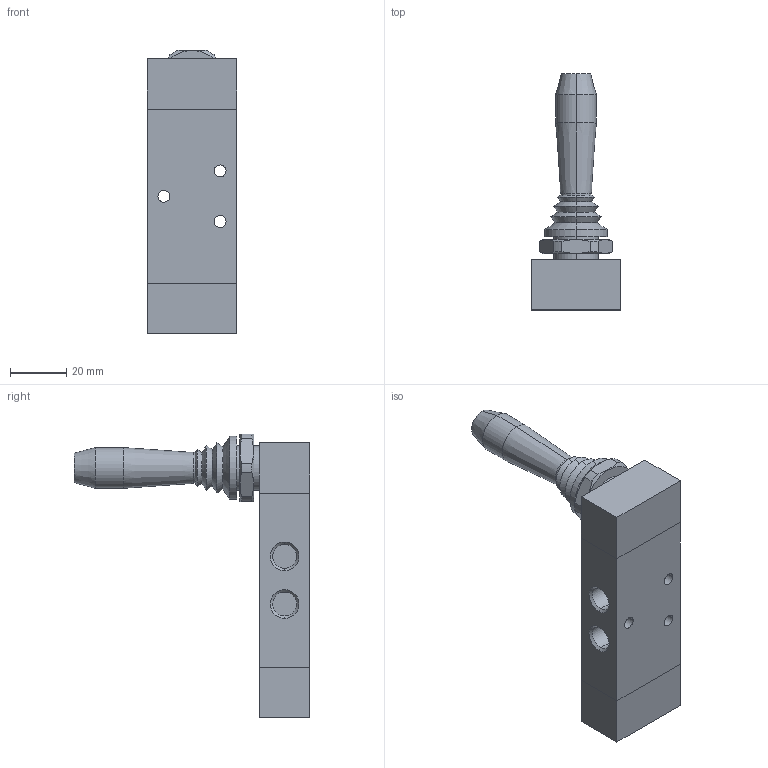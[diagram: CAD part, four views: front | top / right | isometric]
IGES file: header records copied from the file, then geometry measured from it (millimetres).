
Global section: file name: No Iges File Name specified; native system: AutoDesk Inventor R11.0; preprocessor: AutoDesk Inventor Iges Exporter R11.0; author: No Author specified; organization: No Organization specified; date: 20061219.114444; units: millimetre
Bounding box: 32 x 84.01 x 101 mm (x, y, z)
Volume: 65591.9 mm3; surface area: 17193.5 mm2
Topology: 2 solids, 2 shells, 99 faces, 222 edges, 136 vertices
Faces by surface type: bspline 34, cone 22, plane 21, cylinder 14, revolution 8
